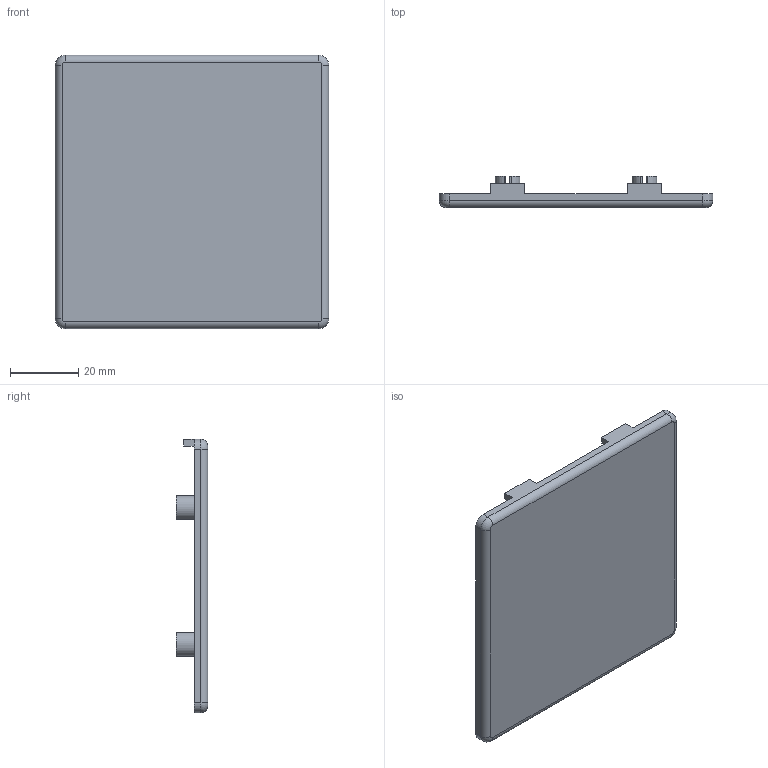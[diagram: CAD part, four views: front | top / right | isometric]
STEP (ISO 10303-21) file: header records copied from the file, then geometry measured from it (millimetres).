
FILE_DESCRIPTION (( 'STEP AP214' ), '1' );
FILE_NAME ('4016.STEP', '2017-08-10T06:20:15', ( '' ), ( '' ), 'SwSTEP 2.0', 'SolidWorks 2014', '' );
FILE_SCHEMA (( 'AUTOMOTIVE_DESIGN' ));
Length unit declared in the file: millimetre
Products named in the file (2): 4016
Bounding box: 80 x 9.2 x 80 mm (x, y, z)
Volume: 14379.2 mm3; surface area: 15594 mm2
Topology: 1 solids, 1 shells, 114 faces, 304 edges, 200 vertices
Faces by surface type: cylinder 68, plane 42, torus 4
Entity records: 3653 total; most frequent: DIRECTION 676, CARTESIAN_POINT 620, ORIENTED_EDGE 608, EDGE_CURVE 304, AXIS2_PLACEMENT_3D 256, VERTEX_POINT 200, VECTOR 164, LINE 164
